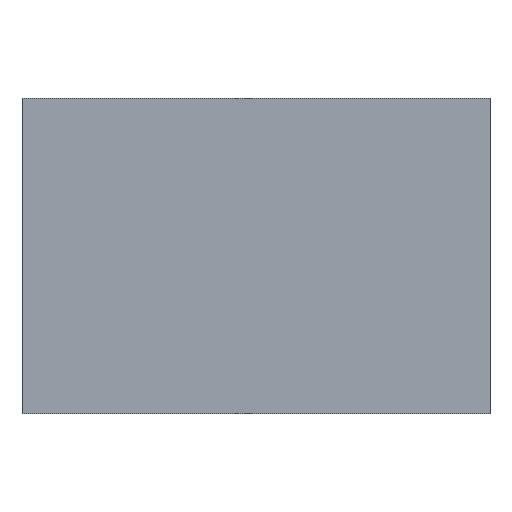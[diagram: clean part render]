
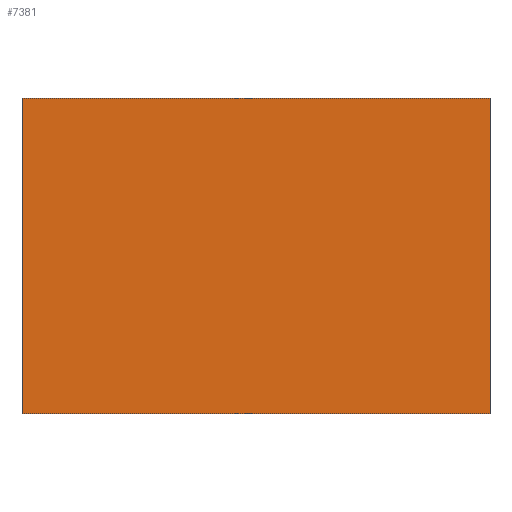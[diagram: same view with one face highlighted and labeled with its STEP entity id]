
A CAD part, front view. The second image highlights one B-rep face of the part: STEP entity #7381.
In plain terms, the highlighted planar face has unit normal (0, -1, 0).
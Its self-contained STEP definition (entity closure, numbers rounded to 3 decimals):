
#865=LINE('',#14405,#1461);
#870=LINE('',#14415,#1466);
#871=LINE('',#14417,#1467);
#873=LINE('',#14420,#1469);
#1461=VECTOR('',#10454,10.);
#1466=VECTOR('',#10461,1000.);
#1467=VECTOR('',#10464,1000.);
#1469=VECTOR('',#10468,10.);
#1687=PLANE('',#8221);
#2092=FACE_OUTER_BOUND('',#2519,.T.);
#2519=EDGE_LOOP('',(#6754,#6755,#6756,#6757));
#3685=VERTEX_POINT('',#14402);
#3686=VERTEX_POINT('',#14404);
#3687=VERTEX_POINT('',#14408);
#3690=VERTEX_POINT('',#14413);
#4773=EDGE_CURVE('',#3685,#3686,#865,.T.);
#4778=EDGE_CURVE('',#3690,#3687,#870,.T.);
#4779=EDGE_CURVE('',#3686,#3690,#871,.T.);
#4781=EDGE_CURVE('',#3687,#3685,#873,.T.);
#6754=ORIENTED_EDGE('',*,*,#4779,.F.);
#6755=ORIENTED_EDGE('',*,*,#4773,.F.);
#6756=ORIENTED_EDGE('',*,*,#4781,.F.);
#6757=ORIENTED_EDGE('',*,*,#4778,.F.);
#7381=ADVANCED_FACE('',(#2092),#1687,.T.);
#8221=AXIS2_PLACEMENT_3D('',#14419,#10466,#10467);
#10454=DIRECTION('',(0.,0.,1.));
#10461=DIRECTION('',(0.,0.,-1.));
#10464=DIRECTION('',(1.,0.,0.));
#10466=DIRECTION('center_axis',(0.,-1.,0.));
#10467=DIRECTION('ref_axis',(0.,0.,-1.));
#10468=DIRECTION('',(-1.,0.,0.));
#14402=CARTESIAN_POINT('',(-30.,0.,-56.));
#14404=CARTESIAN_POINT('',(-30.,0.,0.));
#14405=CARTESIAN_POINT('',(-30.,0.,0.));
#14408=CARTESIAN_POINT('',(53.,0.,-56.));
#14413=CARTESIAN_POINT('',(53.,0.,0.));
#14415=CARTESIAN_POINT('',(53.,0.,0.));
#14417=CARTESIAN_POINT('',(0.,0.,0.));
#14419=CARTESIAN_POINT('Origin',(0.,0.,0.));
#14420=CARTESIAN_POINT('',(0.,0.,-56.));
